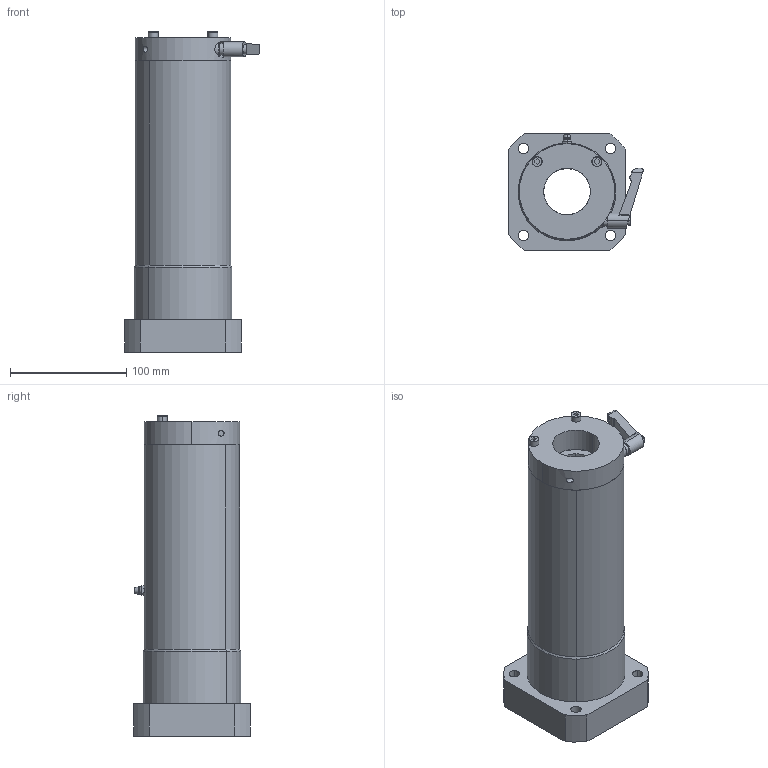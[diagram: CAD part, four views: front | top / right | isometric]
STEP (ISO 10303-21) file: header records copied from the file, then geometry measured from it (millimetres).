
FILE_DESCRIPTION (( 'STEP AP214' ), '1' );
FILE_NAME ('LFWL40A-C.STEP', '2023-06-27T02:39:26', ( '' ), ( '' ), 'SwSTEP 2.0', 'SolidWorks 2019', '' );
FILE_SCHEMA (( 'AUTOMOTIVE_DESIGN' ));
Length unit declared in the file: millimetre
Products named in the file (3): “ÁSCK4020CO-S5.5; LFWL40A; LFWL40A-C
Assembly tree (2 placements, depth 2):
  LFWL40A-C
    LFWL40A
    “ÁSCK4020CO-S5.5
Bounding box: 115.4 x 100 x 275 mm (x, y, z)
Volume: 1203209.4 mm3; surface area: 155443.7 mm2
Topology: 4 solids, 10 shells, 235 faces, 568 edges, 359 vertices
Faces by surface type: cylinder 85, plane 69, bspline 47, cone 22, torus 8, sphere 4
Entity records: 10219 total; most frequent: CARTESIAN_POINT 2278, DIRECTION 1186, ORIENTED_EDGE 1132, EDGE_CURVE 566, AXIS2_PLACEMENT_3D 492, VERTEX_POINT 358, CIRCLE 299, EDGE_LOOP 284
